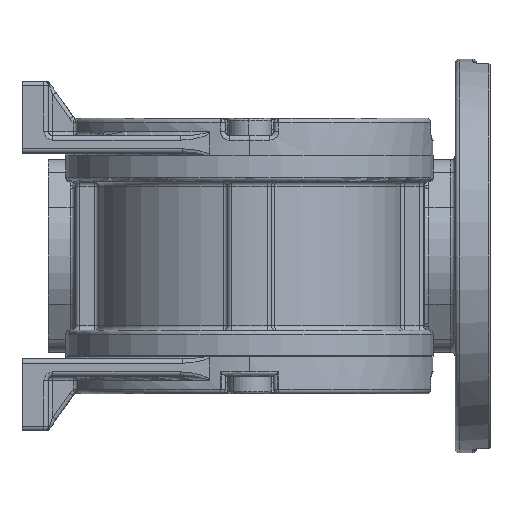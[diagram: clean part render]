
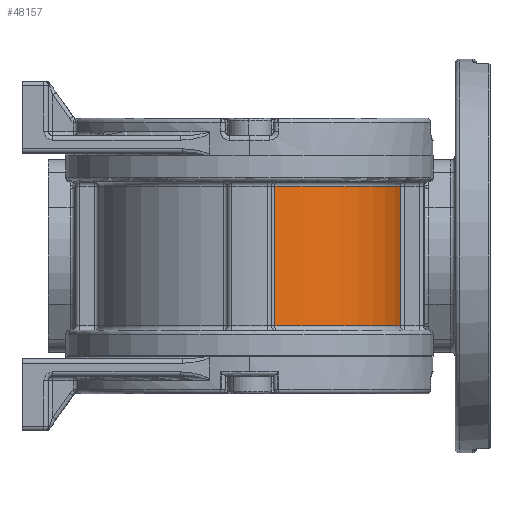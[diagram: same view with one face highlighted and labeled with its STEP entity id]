
A CAD part, front view. The second image highlights one B-rep face of the part: STEP entity #48157.
In plain terms, the highlighted cylindrical face has radius 35 mm (diameter 70 mm), a partial arc.
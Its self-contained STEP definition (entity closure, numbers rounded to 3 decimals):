
#13765 = CARTESIAN_POINT ( 'NONE',  ( 5.833, -64.51, 16. ) ) ;
#13766 = DIRECTION ( 'NONE',  ( 1., 0., 0. ) ) ;
#13767 = DIRECTION ( 'NONE',  ( 0., 0., 1. ) ) ;
#13768 = CARTESIAN_POINT ( 'NONE',  ( 0., -30., -17. ) ) ;
#13769 = AXIS2_PLACEMENT_3D ( 'NONE', #13768, #13767, #13766 ) ;
#13770 = CYLINDRICAL_SURFACE ( 'NONE', #13769, 35. ) ;
#13771 = FACE_OUTER_BOUND ( 'NONE', #48158, .T. ) ;
#13852 = DIRECTION ( 'NONE',  ( 0., 0., -1. ) ) ;
#13853 = VECTOR ( 'NONE', #13852, 1000. ) ;
#13854 = CARTESIAN_POINT ( 'NONE',  ( 5.833, -64.51, -17. ) ) ;
#13855 = LINE ( 'NONE', #13854, #13853 ) ;
#13899 = DIRECTION ( 'NONE',  ( 1., 0., 0. ) ) ;
#13900 = DIRECTION ( 'NONE',  ( 0., 0., -1. ) ) ;
#13901 = CARTESIAN_POINT ( 'NONE',  ( 0., -30., 16. ) ) ;
#13902 = AXIS2_PLACEMENT_3D ( 'NONE', #13901, #13900, #13899 ) ;
#13903 = CIRCLE ( 'NONE', #13902, 35. ) ;
#13905 = CARTESIAN_POINT ( 'NONE',  ( 34.51, -35.833, 16. ) ) ;
#13906 = DIRECTION ( 'NONE',  ( 0., 0., 1. ) ) ;
#13907 = VECTOR ( 'NONE', #13906, 1000. ) ;
#13908 = CARTESIAN_POINT ( 'NONE',  ( 34.51, -35.833, -17. ) ) ;
#13909 = LINE ( 'NONE', #13908, #13907 ) ;
#13910 = CARTESIAN_POINT ( 'NONE',  ( 34.51, -35.833, -16. ) ) ;
#13911 = DIRECTION ( 'NONE',  ( 1., 0., 0. ) ) ;
#13912 = DIRECTION ( 'NONE',  ( 0., 0., 1. ) ) ;
#13913 = CARTESIAN_POINT ( 'NONE',  ( 0., -30., -16. ) ) ;
#13914 = AXIS2_PLACEMENT_3D ( 'NONE', #13913, #13912, #13911 ) ;
#13915 = CIRCLE ( 'NONE', #13914, 35. ) ;
#13916 = CARTESIAN_POINT ( 'NONE',  ( 5.833, -64.51, -16. ) ) ;
#48157 = ADVANCED_FACE ( 'NONE', ( #13771 ), #13770, .T. ) ;
#48158 = EDGE_LOOP ( 'NONE', ( #48212, #48215, #48218, #48221 ) ) ;
#48159 = VERTEX_POINT ( 'NONE', #13765 ) ;
#48212 = ORIENTED_EDGE ( 'NONE', *, *, #48213, .T. ) ;
#48213 = EDGE_CURVE ( 'NONE', #48159, #48214, #13855, .T. ) ;
#48214 = VERTEX_POINT ( 'NONE', #13916 ) ;
#48215 = ORIENTED_EDGE ( 'NONE', *, *, #48216, .T. ) ;
#48216 = EDGE_CURVE ( 'NONE', #48214, #48217, #13915, .T. ) ;
#48217 = VERTEX_POINT ( 'NONE', #13910 ) ;
#48218 = ORIENTED_EDGE ( 'NONE', *, *, #48219, .T. ) ;
#48219 = EDGE_CURVE ( 'NONE', #48217, #48220, #13909, .T. ) ;
#48220 = VERTEX_POINT ( 'NONE', #13905 ) ;
#48221 = ORIENTED_EDGE ( 'NONE', *, *, #48222, .T. ) ;
#48222 = EDGE_CURVE ( 'NONE', #48220, #48159, #13903, .T. ) ;
